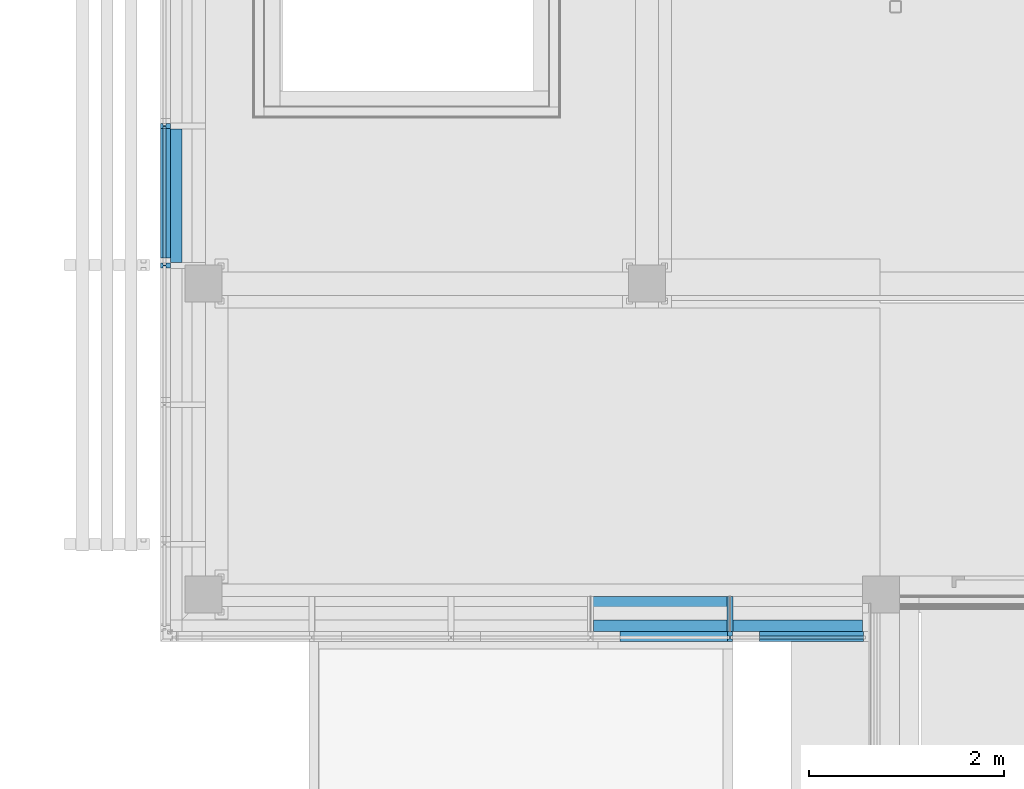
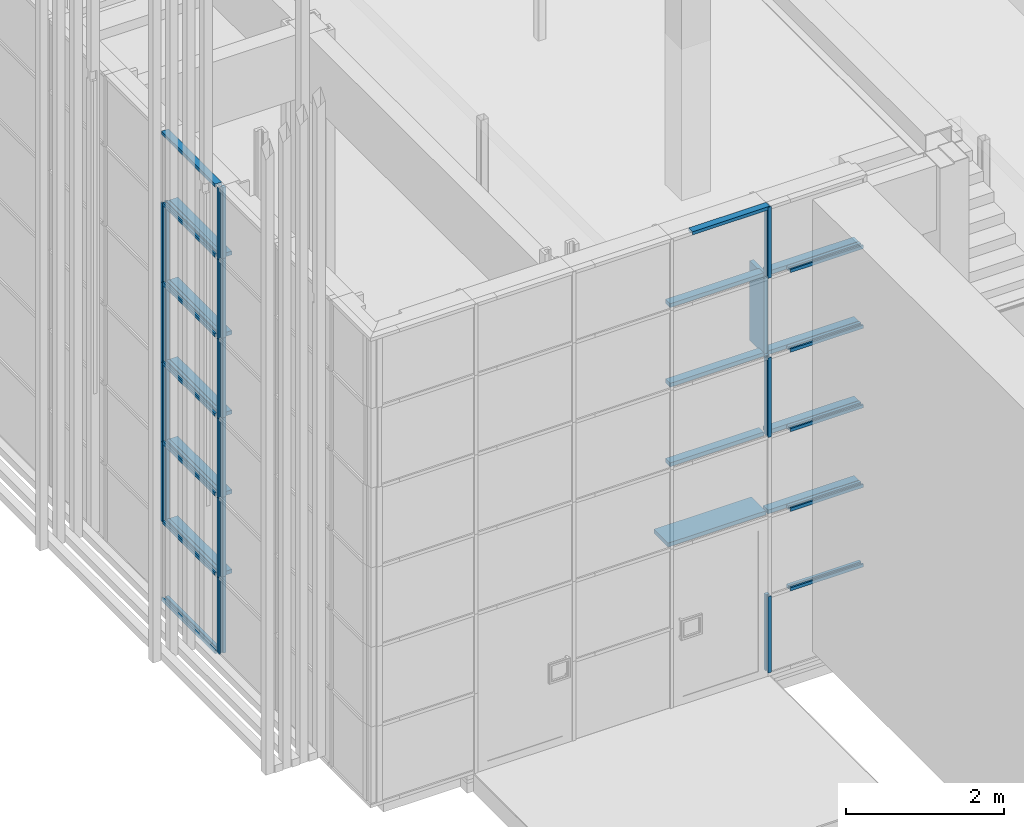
# One storey, part 10 of 260: 40 members, 2 elements without a shape of their own.
"""IFC2X3 building model written with IfcOpenShell, lengths in millimetres."""

from ifc_helpers import new_model, entity, si_unit, converted_unit, derived_unit, money_unit, direction, frame, origin_with_axes, place, context, subcontext, project, spatial, faceted_brep, source, transform, mapped, material, type_object, element, aggregate, save


model = new_model("IFC2X3")

# Units and contexts
model_context = context("Model", 3, precision=0.01, world=origin_with_axes(), true_north=direction((0.0, 1.0)))
body_context = subcontext(model_context, "Body", "Model", "MODEL_VIEW")
ifc_project = project(units=[si_unit("LENGTHUNIT", "METRE", prefix="MILLI"), si_unit("AREAUNIT", "SQUARE_METRE"), si_unit("VOLUMEUNIT", "CUBIC_METRE"), converted_unit("PLANEANGLEUNIT", "DEGREE", entity("IfcPlaneAngleMeasure", 0.0174532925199), si_unit("PLANEANGLEUNIT", "RADIAN"), dimensions=[0, 0, 0, 0, 0, 0, 0]), money_unit("EUR"), converted_unit("TIMEUNIT", "Year", entity("IfcTimeMeasure", 31556926.0), si_unit("TIMEUNIT", "SECOND"), dimensions=[0, 0, 1, 0, 0, 0, 0]), si_unit("MASSUNIT", "GRAM", prefix="KILO"), si_unit("THERMODYNAMICTEMPERATUREUNIT", "DEGREE_CELSIUS"), si_unit("LUMINOUSINTENSITYUNIT", "LUMEN"), si_unit("ENERGYUNIT", "JOULE", prefix="MEGA"), derived_unit("THERMALCONDUCTANCEUNIT", [(si_unit("POWERUNIT", "WATT"), 1), (si_unit("LENGTHUNIT", "METRE"), -1), (si_unit("THERMODYNAMICTEMPERATUREUNIT", "KELVIN"), -1)]), derived_unit("SPECIFICHEATCAPACITYUNIT", [(si_unit("ENERGYUNIT", "JOULE"), 1), (si_unit("MASSUNIT", "GRAM", prefix="KILO"), -1), (si_unit("THERMODYNAMICTEMPERATUREUNIT", "KELVIN"), -1)]), derived_unit("MASSDENSITYUNIT", [(si_unit("MASSUNIT", "GRAM", prefix="KILO"), 1), (si_unit("VOLUMEUNIT", "CUBIC_METRE"), -1)])], contexts=[model_context])

# Site, building, storey
site_placement = place(None, origin_with_axes())
site = spatial("IfcSite", under=ifc_project, at=site_placement, Name="Kolde pst 67a", CompositionType="ELEMENT")
building_placement = place(site_placement, origin_with_axes())
building = spatial("IfcBuilding", under=site, at=building_placement, Name="Riigigümnaasium", CompositionType="ELEMENT")
storey_placement = place(building_placement, origin_with_axes())
storey = spatial("IfcBuildingStorey", under=building, at=storey_placement, Name="1. korrus", CompositionType="ELEMENT", Elevation=0.0)

# Curtain wall, members
curtain_wall_type = type_object("IfcCurtainWallType", Name="Curtain Wall Type", PredefinedType="NOTDEFINED")
curtain_wall_1_placement = place(storey_placement, frame((47829.9854655, 8727.77020058, -0.000749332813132), z_axis=(0.0, 0.0, 1.0), x_axis=(1.0, 0.0, 0.0)))
curtain_wall_1 = element("IfcCurtainWall", 1, at=curtain_wall_1_placement, inside=storey, type_object=curtain_wall_type, Name="KLAASFASSAAD")
ifc_material_1 = material(Name="_METALL - alumiinium")
member_type_1 = type_object("IfcMemberType", Name="Transom Frame 50 x 100", PredefinedType="MEMBER")
shared_shape_1 = source(origin_with_axes(), body_context, "Body", "Brep", [
    faceted_brep([(5.0, -16.5, 1116.31585111), (5.0, 16.5, 1116.31585111), (25.0, 16.5, 1116.31585111), (25.0, 40.0, 1116.31585111), (-25.0, 40.0, 1116.31585111), (-25.0, 16.5, 1116.31585111), (-5.0, 16.5, 1116.31585111), (-5.0, -16.5, 1116.31585111), (-25.0, -16.5, 1116.31585111), (-25.0, -60.0, 1116.31585111), (25.0, -60.0, 1116.31585111), (25.0, -16.5, 1116.31585111), (5.0, -16.5, 50.0), (5.0, 16.5, 50.0), (25.0, 16.5, 50.0), (25.0, 40.0, 50.0), (-25.0, 40.0, 50.0), (-25.0, 16.5, 50.0), (-5.0, 16.5, 50.0), (-5.0, -16.5, 50.0), (-25.0, -16.5, 50.0), (-25.0, -60.0, 50.0), (25.0, -60.0, 50.0), (25.0, -16.5, 50.0)], [[[0, 1, 2, 3, 4, 5, 6, 7, 8, 9, 10, 11]], [[0, 12, 13, 1]], [[1, 13, 14, 2]], [[14, 15, 3, 2]], [[4, 3, 15, 16]], [[17, 5, 4, 16]], [[5, 17, 18, 6]], [[7, 6, 18, 19]], [[8, 7, 19, 20]], [[8, 20, 21, 9]], [[10, 9, 21, 22]], [[11, 10, 22, 23]], [[11, 23, 12, 0]], [[13, 12, 23, 22, 21, 20, 19, 18, 17, 16, 15, 14]]]),
])
member_1_placement = place(curtain_wall_1_placement, frame((7219.88143544, -1457.7720558, 1230.00074933), z_axis=(-1.0, 2.70881141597e-07, 0.0), x_axis=(0.0, 0.0, 1.0)))
member_1 = element("IfcMember", 2, at=member_1_placement, type_object=member_type_1, material=ifc_material_1, Name="RF RAAM HOR-669", ObjectType="MEMBER", context=body_context, shape_type="MappedRepresentation", body=[
    mapped(shared_shape_1, transform((0.0, 0.0, 0.0), x_axis=(-1.0, 0.0, 0.0), y_axis=(0.0, -1.0, 0.0), z_axis=(0.0, 0.0, 1.0))),
])
member_2_placement = place(curtain_wall_1_placement, frame((7219.88143544, -1457.7720558, 2460.00074933), z_axis=(-1.0, 2.70881141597e-07, 0.0), x_axis=(0.0, 0.0, 1.0)))
member_2 = element("IfcMember", 3, at=member_2_placement, type_object=member_type_1, material=ifc_material_1, Name="RF RAAM HOR-669", ObjectType="MEMBER", context=body_context, shape_type="MappedRepresentation", body=[
    mapped(shared_shape_1, transform((0.0, 0.0, 0.0), x_axis=(-1.0, 0.0, 0.0), y_axis=(0.0, -1.0, 0.0), z_axis=(0.0, 0.0, 1.0))),
])
member_3_placement = place(curtain_wall_1_placement, frame((7219.88143544, -1457.7720558, 3690.00074933), z_axis=(-1.0, 2.70881141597e-07, 0.0), x_axis=(0.0, 0.0, 1.0)))
member_3 = element("IfcMember", 4, at=member_3_placement, type_object=member_type_1, material=ifc_material_1, Name="RF RAAM HOR-706", ObjectType="MEMBER", context=body_context, shape_type="MappedRepresentation", body=[
    mapped(shared_shape_1, transform((0.0, 0.0, 0.0), x_axis=(-1.0, 0.0, 0.0), y_axis=(0.0, -1.0, 0.0), z_axis=(0.0, 0.0, 1.0))),
])
member_4_placement = place(curtain_wall_1_placement, frame((7219.88143544, -1457.7720558, 4920.00074933), z_axis=(-1.0, 2.70881141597e-07, 0.0), x_axis=(0.0, 0.0, 1.0)))
member_4 = element("IfcMember", 5, at=member_4_placement, type_object=member_type_1, material=ifc_material_1, Name="RF RAAM HOR-681", ObjectType="MEMBER", context=body_context, shape_type="MappedRepresentation", body=[
    mapped(shared_shape_1, transform((0.0, 0.0, 0.0), x_axis=(-1.0, 0.0, 0.0), y_axis=(0.0, -1.0, 0.0), z_axis=(0.0, 0.0, 1.0))),
])
member_5_placement = place(curtain_wall_1_placement, frame((7219.88143544, -1457.7720558, 6150.00074933), z_axis=(-1.0, 2.70881141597e-07, 0.0), x_axis=(0.0, 0.0, 1.0)))
member_5 = element("IfcMember", 6, at=member_5_placement, type_object=member_type_1, material=ifc_material_1, Name="RF RAAM HOR-687", ObjectType="MEMBER", context=body_context, shape_type="MappedRepresentation", body=[
    mapped(shared_shape_1, transform((0.0, 0.0, 0.0), x_axis=(-1.0, 0.0, 0.0), y_axis=(0.0, -1.0, 0.0), z_axis=(0.0, 0.0, 1.0))),
])
member_type_2 = type_object("IfcMemberType", Name="Mullion Frame 50 x 100", PredefinedType="MEMBER")
shared_shape_2 = source(origin_with_axes(), body_context, "Body", "Brep", [
    faceted_brep([(5.0, -16.5, 1230.00046362), (5.0, 16.5, 1230.00046362), (25.0, 16.5, 1230.00046362), (25.0, 40.0, 1230.00046362), (-25.0, 40.0, 1230.00046362), (-25.0, 16.5, 1230.00046362), (-5.0, 16.5, 1230.00046362), (-5.0, -16.5, 1230.00046362), (-25.0, -16.5, 1230.00046362), (-25.0, -60.0, 1230.00046362), (25.0, -60.0, 1230.00046362), (25.0, -16.5, 1230.00046362), (5.0, -16.5, 50.0), (5.0, 16.5, 50.0), (25.0, 16.5, 50.0), (25.0, 40.0, 50.0), (-25.0, 40.0, 50.0), (-25.0, 16.5, 50.0), (-5.0, 16.5, 50.0), (-5.0, -16.5, 50.0), (-25.0, -16.5, 50.0), (-25.0, -60.0, 50.0), (25.0, -60.0, 50.0), (25.0, -16.5, 50.0)], [[[0, 1, 2, 3, 4, 5, 6, 7, 8, 9, 10, 11]], [[0, 12, 13, 1]], [[1, 13, 14, 2]], [[14, 15, 3, 2]], [[4, 3, 15, 16]], [[17, 5, 4, 16]], [[5, 17, 18, 6]], [[7, 6, 18, 19]], [[8, 7, 19, 20]], [[8, 20, 21, 9]], [[10, 9, 21, 22]], [[11, 10, 22, 23]], [[11, 23, 12, 0]], [[13, 12, 23, 22, 21, 20, 19, 18, 17, 16, 15, 14]]]),
])
member_6_placement = place(curtain_wall_1_placement, frame((-2.15032258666e-06, 2358.79108085, 0.0), z_axis=(0.0, -1.0434292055e-08, 1.0), x_axis=(9.1161639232e-10, -1.0, -1.0434292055e-08)))
member_6 = element("IfcMember", 7, at=member_6_placement, type_object=member_type_2, material=ifc_material_1, Name="RF RAAM VERT-984", ObjectType="MEMBER", context=body_context, shape_type="MappedRepresentation", body=[
    mapped(shared_shape_2, transform((0.0, 0.0, 0.0), x_axis=(-1.0, 0.0, -1.0434292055e-08), y_axis=(0.0, -1.0, 0.0), z_axis=(-1.0434292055e-08, 0.0, 1.0))),
])
member_7_placement = place(curtain_wall_1_placement, frame((5800.65723232, -1457.77167136, 0.000719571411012), z_axis=(-8.07245849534e-10, 0.0, 1.0), x_axis=(1.0, -2.70881141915e-07, 8.07245849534e-10)))
member_7 = element("IfcMember", 8, at=member_7_placement, type_object=member_type_2, material=ifc_material_1, Name="RF RAAM VERT-001", ObjectType="MEMBER", context=body_context, shape_type="MappedRepresentation", body=[
    mapped(shared_shape_2, transform((0.0, 0.0, 0.0), x_axis=(-1.0, -2.70881141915e-07, 8.07245849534e-10), y_axis=(2.70881141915e-07, -1.0, 0.0), z_axis=(8.07245849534e-10, 0.0, 1.0))),
])
shared_shape_3 = source(origin_with_axes(), body_context, "Body", "Brep", [
    faceted_brep([(5.0, -16.5, 1230.0), (5.0, 16.5, 1230.0), (25.0, 16.5, 1230.0), (25.0, 40.0, 1230.0), (-25.0, 40.0, 1230.0), (-25.0, 16.5, 1230.0), (-5.0, 16.5, 1230.0), (-5.0, -16.5, 1230.0), (-25.0, -16.5, 1230.0), (-25.0, -60.0, 1230.0), (25.0, -60.0, 1230.0), (25.0, -16.5, 1230.0), (5.0, -16.5, 0.0), (5.0, 16.5, 0.0), (25.0, 16.5, 0.0), (25.0, 40.0, 0.0), (-25.0, 40.0, 0.0), (-25.0, 16.5, 0.0), (-5.0, 16.5, 0.0), (-5.0, -16.5, 0.0), (-25.0, -16.5, 0.0), (-25.0, -60.0, 0.0), (25.0, -60.0, 0.0), (25.0, -16.5, 0.0)], [[[0, 1, 2, 3, 4, 5, 6, 7, 8, 9, 10, 11]], [[0, 12, 13, 1]], [[1, 13, 14, 2]], [[14, 15, 3, 2]], [[3, 15, 16, 4]], [[17, 5, 4, 16]], [[5, 17, 18, 6]], [[7, 6, 18, 19]], [[8, 7, 19, 20]], [[8, 20, 21, 9]], [[9, 21, 22, 10]], [[11, 10, 22, 23]], [[11, 23, 12, 0]], [[13, 12, 23, 22, 21, 20, 19, 18, 17, 16, 15, 14]]]),
])
member_8_placement = place(curtain_wall_1_placement, frame((-2.15032258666e-06, 2358.79106801, 4920.00074933), z_axis=(0.0, 0.0, 1.0), x_axis=(9.1161639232e-10, -1.0, 0.0)))
member_8 = element("IfcMember", 9, at=member_8_placement, type_object=member_type_2, material=ifc_material_1, Name="RF RAAM VERT-869", ObjectType="MEMBER", context=body_context, shape_type="MappedRepresentation", body=[
    mapped(shared_shape_3, transform((0.0, 0.0, 0.0), x_axis=(-1.0, 0.0, 0.0), y_axis=(0.0, -1.0, 0.0), z_axis=(0.0, 0.0, 1.0))),
])
member_9_placement = place(curtain_wall_1_placement, frame((-3.45392692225e-06, 3788.79108932, 4920.00074933), z_axis=(0.0, -1.73241294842e-08, 1.0), x_axis=(9.11613907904e-10, -1.0, -1.73241294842e-08)))
member_9 = element("IfcMember", 10, at=member_9_placement, type_object=member_type_2, material=ifc_material_1, Name="RF RAAM VERT-870", ObjectType="MEMBER", context=body_context, shape_type="MappedRepresentation", body=[
    mapped(shared_shape_3, transform((0.0, 0.0, 0.0), x_axis=(-1.0, 0.0, -1.73241294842e-08), y_axis=(0.0, -1.0, 0.0), z_axis=(-1.73241294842e-08, 0.0, 1.0))),
])
member_10_placement = place(curtain_wall_1_placement, frame((-3.45392692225e-06, 3788.79106801, 1230.00074933), z_axis=(0.0, 0.0, 1.0), x_axis=(9.11613907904e-10, -1.0, 0.0)))
member_10 = element("IfcMember", 11, at=member_10_placement, type_object=member_type_2, material=ifc_material_1, Name="RF RAAM VERT-975", ObjectType="MEMBER", context=body_context, shape_type="MappedRepresentation", body=[
    mapped(shared_shape_3, transform((0.0, 0.0, 0.0), x_axis=(-1.0, 0.0, 0.0), y_axis=(0.0, -1.0, 0.0), z_axis=(0.0, 0.0, 1.0))),
])
member_11_placement = place(curtain_wall_1_placement, frame((-3.45392692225e-06, 3788.79106801, 2460.00074933), z_axis=(0.0, 0.0, 1.0), x_axis=(9.11613907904e-10, -1.0, 0.0)))
member_11 = element("IfcMember", 12, at=member_11_placement, type_object=member_type_2, material=ifc_material_1, Name="RF RAAM VERT-976", ObjectType="MEMBER", context=body_context, shape_type="MappedRepresentation", body=[
    mapped(shared_shape_3, transform((0.0, 0.0, 0.0), x_axis=(-1.0, 0.0, 0.0), y_axis=(0.0, -1.0, 0.0), z_axis=(0.0, 0.0, 1.0))),
])
member_12_placement = place(curtain_wall_1_placement, frame((-3.45392692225e-06, 3788.79106801, 3690.00074933), z_axis=(0.0, 1.73241294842e-08, 1.0), x_axis=(9.11613907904e-10, -1.0, 1.73241294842e-08)))
member_12 = element("IfcMember", 13, at=member_12_placement, type_object=member_type_2, material=ifc_material_1, Name="RF RAAM VERT-977", ObjectType="MEMBER", context=body_context, shape_type="MappedRepresentation", body=[
    mapped(shared_shape_3, transform((0.0, 0.0, 0.0), x_axis=(-1.0, 0.0, 1.73241294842e-08), y_axis=(0.0, -1.0, 0.0), z_axis=(1.73241294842e-08, 0.0, 1.0))),
])
member_13_placement = place(curtain_wall_1_placement, frame((-2.15032258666e-06, 2358.79106801, 1230.00074933), z_axis=(0.0, 0.0, 1.0), x_axis=(9.1161639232e-10, -1.0, 0.0)))
member_13 = element("IfcMember", 14, at=member_13_placement, type_object=member_type_2, material=ifc_material_1, Name="RF RAAM VERT-980", ObjectType="MEMBER", context=body_context, shape_type="MappedRepresentation", body=[
    mapped(shared_shape_3, transform((0.0, 0.0, 0.0), x_axis=(-1.0, 0.0, 0.0), y_axis=(0.0, -1.0, 0.0), z_axis=(0.0, 0.0, 1.0))),
])
member_14_placement = place(curtain_wall_1_placement, frame((-2.15032258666e-06, 2358.79106801, 2460.00074933), z_axis=(0.0, 0.0, 1.0), x_axis=(9.1161639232e-10, -1.0, 0.0)))
member_14 = element("IfcMember", 15, at=member_14_placement, type_object=member_type_2, material=ifc_material_1, Name="RF RAAM VERT-981", ObjectType="MEMBER", context=body_context, shape_type="MappedRepresentation", body=[
    mapped(shared_shape_3, transform((0.0, 0.0, 0.0), x_axis=(-1.0, 0.0, 0.0), y_axis=(0.0, -1.0, 0.0), z_axis=(0.0, 0.0, 1.0))),
])
member_15_placement = place(curtain_wall_1_placement, frame((-2.15032258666e-06, 2358.79106801, 3690.00074933), z_axis=(0.0, 0.0, 1.0), x_axis=(9.1161639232e-10, -1.0, 0.0)))
member_15 = element("IfcMember", 16, at=member_15_placement, type_object=member_type_2, material=ifc_material_1, Name="RF RAAM VERT-982", ObjectType="MEMBER", context=body_context, shape_type="MappedRepresentation", body=[
    mapped(shared_shape_3, transform((0.0, 0.0, 0.0), x_axis=(-1.0, 0.0, 0.0), y_axis=(0.0, -1.0, 0.0), z_axis=(0.0, 0.0, 1.0))),
])
member_16_placement = place(curtain_wall_1_placement, frame((5800.65725263, -1457.77167136, 3690.00074933), z_axis=(0.0, 0.0, 1.0), x_axis=(1.0, -2.70881141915e-07, 0.0)))
member_16 = element("IfcMember", 17, at=member_16_placement, type_object=member_type_2, material=ifc_material_1, Name="RF RAAM VERT-002", ObjectType="MEMBER", context=body_context, shape_type="MappedRepresentation", body=[
    mapped(shared_shape_3, transform((0.0, 0.0, 0.0), x_axis=(-1.0, -2.70881141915e-07, 0.0), y_axis=(2.70881141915e-07, -1.0, 0.0), z_axis=(0.0, 0.0, 1.0))),
])
shared_shape_4 = source(origin_with_axes(), body_context, "Body", "Brep", [
    faceted_brep([(5.0, -16.5, 1327.75198335), (5.0, 16.5, 1327.75198335), (25.0, 16.5, 1327.75198335), (25.0, 40.0, 1327.75198335), (-25.0, 40.0, 1327.75198335), (-25.0, 16.5, 1327.75198335), (-5.0, 16.5, 1327.75198335), (-5.0, -16.5, 1327.75198335), (-25.0, -16.5, 1327.75198335), (-25.0, -60.0, 1327.75198335), (25.0, -60.0, 1327.75198335), (25.0, -16.5, 1327.75198335), (5.0, -16.5, 0.0), (5.0, 16.5, 0.0), (25.0, 16.5, 0.0), (25.0, 40.0, 0.0), (-25.0, 40.0, 0.0), (-25.0, 16.5, 0.0), (-5.0, 16.5, 0.0), (-5.0, -16.5, 0.0), (-25.0, -16.5, 0.0), (-25.0, -60.0, 0.0), (25.0, -60.0, 0.0), (25.0, -16.5, 0.0)], [[[0, 1, 2, 3, 4, 5, 6, 7, 8, 9, 10, 11]], [[0, 12, 13, 1]], [[1, 13, 14, 2]], [[14, 15, 3, 2]], [[3, 15, 16, 4]], [[17, 5, 4, 16]], [[5, 17, 18, 6]], [[7, 6, 18, 19]], [[8, 7, 19, 20]], [[8, 20, 21, 9]], [[9, 21, 22, 10]], [[11, 10, 22, 23]], [[11, 23, 12, 0]], [[13, 12, 23, 22, 21, 20, 19, 18, 17, 16, 15, 14]]]),
])
member_17_placement = place(curtain_wall_1_placement, frame((-2.2207444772e-06, 2436.03908467, 4920.00074933), z_axis=(-9.11610140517e-10, 1.0, 0.0), x_axis=(0.0, 0.0, 1.0)))
member_17 = element("IfcMember", 18, at=member_17_placement, type_object=member_type_1, material=ifc_material_1, Name="RF RAAM HOR-827", ObjectType="MEMBER", context=body_context, shape_type="MappedRepresentation", body=[
    mapped(shared_shape_4, transform((0.0, 0.0, 0.0), x_axis=(-1.0, 0.0, 0.0), y_axis=(0.0, -1.0, 9.11610018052e-10), z_axis=(0.0, 9.11610018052e-10, 1.0))),
])
member_18_placement = place(curtain_wall_1_placement, frame((-2.2207444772e-06, 2436.03908467, 6150.00074933), z_axis=(-9.11610154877e-10, 1.0, 0.0), x_axis=(0.0, 0.0, 1.0)))
member_18 = element("IfcMember", 19, at=member_18_placement, type_object=member_type_1, material=ifc_material_1, Name="RF RAAM HOR-828", ObjectType="MEMBER", context=body_context, shape_type="MappedRepresentation", body=[
    mapped(shared_shape_4, transform((0.0, 0.0, 0.0), x_axis=(-1.0, 0.0, 0.0), y_axis=(0.0, -1.0, 9.11610032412e-10), z_axis=(0.0, 9.11610032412e-10, 1.0))),
])
member_19_placement = place(curtain_wall_1_placement, frame((-2.2207444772e-06, 2436.03908467, 1230.00074933), z_axis=(-9.11610154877e-10, 1.0, 0.0), x_axis=(0.0, 0.0, 1.0)))
member_19 = element("IfcMember", 20, at=member_19_placement, type_object=member_type_1, material=ifc_material_1, Name="RF RAAM HOR-934", ObjectType="MEMBER", context=body_context, shape_type="MappedRepresentation", body=[
    mapped(shared_shape_4, transform((0.0, 0.0, 0.0), x_axis=(-1.0, 0.0, 0.0), y_axis=(0.0, -1.0, 9.11610032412e-10), z_axis=(0.0, 9.11610032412e-10, 1.0))),
])
member_20_placement = place(curtain_wall_1_placement, frame((-2.2207444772e-06, 2436.03908467, 2460.00074933), z_axis=(-9.11610154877e-10, 1.0, 0.0), x_axis=(0.0, 0.0, 1.0)))
member_20 = element("IfcMember", 21, at=member_20_placement, type_object=member_type_1, material=ifc_material_1, Name="RF RAAM HOR-935", ObjectType="MEMBER", context=body_context, shape_type="MappedRepresentation", body=[
    mapped(shared_shape_4, transform((0.0, 0.0, 0.0), x_axis=(-1.0, 0.0, 0.0), y_axis=(0.0, -1.0, 9.11610032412e-10), z_axis=(0.0, 9.11610032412e-10, 1.0))),
])
member_21_placement = place(curtain_wall_1_placement, frame((-2.2207444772e-06, 2436.03908467, 3690.00074933), z_axis=(-9.11610154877e-10, 1.0, 0.0), x_axis=(0.0, 0.0, 1.0)))
member_21 = element("IfcMember", 22, at=member_21_placement, type_object=member_type_1, material=ifc_material_1, Name="RF RAAM HOR-936", ObjectType="MEMBER", context=body_context, shape_type="MappedRepresentation", body=[
    mapped(shared_shape_4, transform((0.0, 0.0, 0.0), x_axis=(-1.0, 0.0, 0.0), y_axis=(0.0, -1.0, 9.11610032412e-10), z_axis=(0.0, 9.11610032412e-10, 1.0))),
])
member_type_3 = type_object("IfcMemberType", Name="Boundary Frame 50 x 100", PredefinedType="MEMBER")
shared_shape_5 = source(origin_with_axes(), body_context, "Body", "Brep", [
    faceted_brep([(-30.0, -16.5, 1352.75197298), (-50.0, -16.5, 1352.75197298), (-50.0, -60.0, 1352.75197298), (0.0, -60.0, 1352.75197298), (0.0, 40.0, 1352.75197298), (-50.0, 40.0, 1352.75197298), (-50.0, 16.5, 1352.75197298), (-30.0, 16.5, 1352.75197298), (-30.0, -16.5, 0.0), (-50.0, -16.5, 0.0), (-50.0, -60.0, 0.0), (0.0, -60.0, 0.0), (0.0, 40.0, 0.0), (-50.0, 40.0, 0.0), (-50.0, 16.5, 0.0), (-30.0, 16.5, 0.0)], [[[0, 1, 2, 3, 4, 5, 6, 7]], [[0, 8, 9, 1]], [[9, 10, 2, 1]], [[10, 11, 3, 2]], [[11, 12, 4, 3]], [[12, 13, 5, 4]], [[6, 5, 13, 14]], [[14, 15, 7, 6]], [[7, 15, 8, 0]], [[8, 15, 14, 13, 12, 11, 10, 9]]]),
])
member_22_placement = place(curtain_wall_1_placement, frame((-2.2207444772e-06, 2436.03908467, 0.0), z_axis=(-9.11610153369e-10, 1.0, 0.0), x_axis=(0.0, 0.0, 1.0)))
member_22 = element("IfcMember", 23, at=member_22_placement, type_object=member_type_3, material=ifc_material_1, Name="RF RAAM SERV-556", ObjectType="MEMBER", context=body_context, shape_type="MappedRepresentation", body=[
    mapped(shared_shape_5, transform((0.0, 0.0, 0.0), x_axis=(-1.0, 0.0, 0.0), y_axis=(0.0, -1.0, 9.11610030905e-10), z_axis=(0.0, 9.11610030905e-10, 1.0))),
])
member_23_placement = place(curtain_wall_1_placement, frame((-3.45392692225e-06, 3788.79107023, 7259.99994321), z_axis=(9.11610153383e-10, -1.0, 0.0), x_axis=(0.0, 0.0, -1.0)))
member_23 = element("IfcMember", 24, at=member_23_placement, type_object=member_type_3, material=ifc_material_1, Name="RF RAAM SERV-579", ObjectType="MEMBER", context=body_context, shape_type="MappedRepresentation", body=[
    mapped(shared_shape_5, transform((0.0, 0.0, 0.0), x_axis=(-1.0, 0.0, 0.0), y_axis=(0.0, -1.0, -9.11610153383e-10), z_axis=(0.0, -9.11610153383e-10, 1.0))),
])
shared_shape_6 = source(origin_with_axes(), body_context, "Body", "Brep", [
    faceted_brep([(5.0, -16.5, 1099.99900713), (5.0, 16.5, 1099.99900713), (25.0, 16.5, 1099.99900713), (25.0, 40.0, 1099.99900713), (-25.0, 40.0, 1099.99900713), (-25.0, 16.5, 1099.99900713), (-5.0, 16.5, 1099.99900713), (-5.0, -16.5, 1099.99900713), (-25.0, -16.5, 1099.99900713), (-25.0, -60.0, 1099.99900713), (25.0, -60.0, 1099.99900713), (25.0, -16.5, 1099.99900713), (5.0, -16.5, -4.55870452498e-07), (5.0, 16.5, -4.55870452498e-07), (25.0, 16.5, -4.55870452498e-07), (25.0, 40.0, -4.55870452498e-07), (-25.0, 40.0, -4.55870452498e-07), (-25.0, 16.5, -4.55870452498e-07), (-5.0, 16.5, -4.55870452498e-07), (-5.0, -16.5, -4.55870452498e-07), (-25.0, -16.5, -4.55870452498e-07), (-25.0, -60.0, -4.55870452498e-07), (25.0, -60.0, -4.55870452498e-07), (25.0, -16.5, -4.55870452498e-07)], [[[0, 1, 2, 3, 4, 5, 6, 7, 8, 9, 10, 11]], [[0, 12, 13, 1]], [[1, 13, 14, 2]], [[14, 15, 3, 2]], [[3, 15, 16, 4]], [[17, 5, 4, 16]], [[5, 17, 18, 6]], [[7, 6, 18, 19]], [[8, 7, 19, 20]], [[8, 20, 21, 9]], [[9, 21, 22, 10]], [[11, 10, 22, 23]], [[11, 23, 12, 0]], [[13, 12, 23, 22, 21, 20, 19, 18, 17, 16, 15, 14]]]),
])
member_24_placement = place(curtain_wall_1_placement, frame((5800.65723132, -1457.77167136, 6150.00074933), z_axis=(9.10684067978e-10, 0.0, 1.0), x_axis=(1.0, -2.70881141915e-07, -9.10684067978e-10)))
member_24 = element("IfcMember", 25, at=member_24_placement, type_object=member_type_2, material=ifc_material_1, Name="RF RAAM VERT-025", ObjectType="MEMBER", context=body_context, shape_type="MappedRepresentation", body=[
    mapped(shared_shape_6, transform((0.0, 0.0, 0.0), x_axis=(-1.0, -2.70881141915e-07, -9.10684067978e-10), y_axis=(2.70881141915e-07, -1.0, 0.0), z_axis=(-9.10684067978e-10, 0.0, 1.0))),
])
member_25_placement = place(curtain_wall_1_placement, frame((-2.15032258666e-06, 2358.79106801, 6150.00074933), z_axis=(0.0, 1.14590996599e-08, 1.0), x_axis=(9.1161639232e-10, -1.0, 1.14590996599e-08)))
member_25 = element("IfcMember", 26, at=member_25_placement, type_object=member_type_2, material=ifc_material_1, Name="RF RAAM VERT-045", ObjectType="MEMBER", context=body_context, shape_type="MappedRepresentation", body=[
    mapped(shared_shape_6, transform((0.0, 0.0, 0.0), x_axis=(-1.0, 0.0, 1.14590996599e-08), y_axis=(0.0, -1.0, 0.0), z_axis=(1.14590996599e-08, 0.0, 1.0))),
])
shared_shape_7 = source(origin_with_axes(), body_context, "Body", "Brep", [
    faceted_brep([(-30.0, -16.5, 1127.09167065), (-50.0, -16.5, 1127.09167065), (-50.0, -60.0, 1127.09167065), (0.0, -60.0, 1127.09167065), (0.0, 40.0, 1127.09167065), (-50.0, 40.0, 1127.09167065), (-50.0, 16.5, 1127.09167065), (-30.0, 16.5, 1127.09167065), (-30.0, -16.5, 0.0), (-50.0, -16.5, 0.0), (-50.0, -60.0, 0.0), (0.0, -60.0, 0.0), (0.0, 40.0, 0.0), (-50.0, 40.0, 0.0), (-50.0, 16.5, 0.0), (-30.0, 16.5, 0.0)], [[[0, 1, 2, 3, 4, 5, 6, 7]], [[0, 8, 9, 1]], [[9, 10, 2, 1]], [[10, 11, 3, 2]], [[11, 12, 4, 3]], [[12, 13, 5, 4]], [[6, 5, 13, 14]], [[14, 15, 7, 6]], [[7, 15, 8, 0]], [[8, 15, 14, 13, 12, 11, 10, 9]]]),
])
member_26_placement = place(curtain_wall_1_placement, frame((4673.56558433, -1457.77136606, 7259.9997596), z_axis=(1.0, -2.70881141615e-07, -1.99385263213e-08), x_axis=(-1.99385263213e-08, 0.0, -1.0)))
member_26 = element("IfcMember", 27, at=member_26_placement, type_object=member_type_3, material=ifc_material_1, Name="RF RAAM SERV-545", ObjectType="MEMBER", context=body_context, shape_type="MappedRepresentation", body=[
    mapped(shared_shape_7, transform((0.0, 0.0, 0.0), x_axis=(-1.0, 0.0, -1.99385263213e-08), y_axis=(0.0, -1.0, 0.0), z_axis=(-1.99385263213e-08, 0.0, 1.0))),
])
aggregate(curtain_wall_1, [member_1, member_2, member_3, member_4, member_5, member_8, member_9, member_17, member_18, member_10, member_19, member_20, member_11, member_21, member_12, member_22, member_13, member_14, member_15, member_6, member_7, member_16, member_24, member_25, member_26, member_23])

curtain_wall_2_placement = place(storey_placement, frame((47889.9854796, 7778.28071079, -0.000681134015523), z_axis=(0.0, 0.0, 1.0), x_axis=(1.0, 0.0, 0.0)))
curtain_wall_2 = element("IfcCurtainWall", 28, at=curtain_wall_2_placement, inside=storey, type_object=curtain_wall_type, Name="Klaasfassaadi puitkarkass")
ifc_material_2 = material(Name="_KANDETARIND - liimpuit vastavalt EK osale")
member_type_4 = type_object("IfcMemberType", Name="Transom Frame 60 x 120", PredefinedType="MEMBER")
shared_shape_8 = source(origin_with_axes(), body_context, "Body", "Brep", [
    faceted_brep([(-30.0, 0.0, 30.0), (-30.0, -120.0, 30.0), (-30.0, -120.0, 1400.0), (-30.0, 0.0, 1400.0), (30.0, 0.0, 30.0), (30.0, -120.0, 30.0), (30.0, -120.0, 1400.0), (30.0, 0.0, 1400.0)], [[[0, 1, 2, 3]], [[1, 0, 4, 5]], [[1, 5, 6, 2]], [[2, 6, 7, 3]], [[4, 0, 3, 7]], [[5, 4, 7, 6]]]),
])
member_27_placement = place(curtain_wall_2_placement, frame((-3.55545637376e-06, 3308.28063511, 1230.00068113), z_axis=(-1.07471824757e-09, 1.0, 0.0), x_axis=(0.0, 0.0, 1.0)))
member_27 = element("IfcMember", 29, at=member_27_placement, type_object=member_type_4, material=ifc_material_2, Name="RF RAAM HOR-249", ObjectType="MEMBER", context=body_context, shape_type="MappedRepresentation", body=[
    mapped(shared_shape_8, transform((0.0, 0.0, 0.0), x_axis=(-1.0, 0.0, 0.0), y_axis=(0.0, -1.0, 1.07471812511e-09), z_axis=(0.0, 1.07471812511e-09, 1.0))),
])
member_28_placement = place(curtain_wall_2_placement, frame((-3.55545637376e-06, 3308.28063511, 2460.00068113), z_axis=(-1.07471824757e-09, 1.0, 0.0), x_axis=(0.0, 0.0, 1.0)))
member_28 = element("IfcMember", 30, at=member_28_placement, type_object=member_type_4, material=ifc_material_2, Name="RF RAAM HOR-249", ObjectType="MEMBER", context=body_context, shape_type="MappedRepresentation", body=[
    mapped(shared_shape_8, transform((0.0, 0.0, 0.0), x_axis=(-1.0, 0.0, 0.0), y_axis=(0.0, -1.0, 1.07471812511e-09), z_axis=(0.0, 1.07471812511e-09, 1.0))),
])
member_29_placement = place(curtain_wall_2_placement, frame((-3.55545637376e-06, 3308.28063511, 3690.00068113), z_axis=(-1.07471824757e-09, 1.0, 0.0), x_axis=(0.0, 0.0, 1.0)))
member_29 = element("IfcMember", 31, at=member_29_placement, type_object=member_type_4, material=ifc_material_2, Name="RF RAAM HOR-249", ObjectType="MEMBER", context=body_context, shape_type="MappedRepresentation", body=[
    mapped(shared_shape_8, transform((0.0, 0.0, 0.0), x_axis=(-1.0, 0.0, 0.0), y_axis=(0.0, -1.0, 1.07471812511e-09), z_axis=(0.0, 1.07471812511e-09, 1.0))),
])
member_30_placement = place(curtain_wall_2_placement, frame((-3.55545637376e-06, 3308.28063511, 4920.00068113), z_axis=(-1.07471824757e-09, 1.0, 0.0), x_axis=(0.0, 0.0, 1.0)))
member_30 = element("IfcMember", 32, at=member_30_placement, type_object=member_type_4, material=ifc_material_2, Name="RF RAAM HOR-249", ObjectType="MEMBER", context=body_context, shape_type="MappedRepresentation", body=[
    mapped(shared_shape_8, transform((0.0, 0.0, 0.0), x_axis=(-1.0, 0.0, 0.0), y_axis=(0.0, -1.0, 1.07471812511e-09), z_axis=(0.0, 1.07471812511e-09, 1.0))),
])
member_31_placement = place(curtain_wall_2_placement, frame((-3.55545637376e-06, 3308.28063511, 6150.00068113), z_axis=(-1.07471824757e-09, 1.0, 0.0), x_axis=(0.0, 0.0, 1.0)))
member_31 = element("IfcMember", 33, at=member_31_placement, type_object=member_type_4, material=ifc_material_2, Name="RF RAAM HOR-249", ObjectType="MEMBER", context=body_context, shape_type="MappedRepresentation", body=[
    mapped(shared_shape_8, transform((0.0, 0.0, 0.0), x_axis=(-1.0, 0.0, 0.0), y_axis=(0.0, -1.0, 1.07471812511e-09), z_axis=(0.0, 1.07471812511e-09, 1.0))),
])
member_32_placement = place(curtain_wall_2_placement, frame((5740.65727801, -448.282138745, 3690.00068113), z_axis=(-1.0, 2.61927578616e-07, 0.0), x_axis=(0.0, 0.0, 1.0)))
member_32 = element("IfcMember", 34, at=member_32_placement, type_object=member_type_4, material=ifc_material_2, Name="RF RAAM HOR-249", ObjectType="MEMBER", context=body_context, shape_type="MappedRepresentation", body=[
    mapped(shared_shape_8, transform((0.0, 0.0, 0.0), x_axis=(-1.0, 0.0, 0.0), y_axis=(0.0, -1.0, 0.0), z_axis=(0.0, 0.0, 1.0))),
])
member_33_placement = place(curtain_wall_2_placement, frame((5740.65727801, -448.282138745, 4920.00068113), z_axis=(-1.0, 2.61927578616e-07, 0.0), x_axis=(0.0, 0.0, 1.0)))
member_33 = element("IfcMember", 35, at=member_33_placement, type_object=member_type_4, material=ifc_material_2, Name="RF RAAM HOR-249", ObjectType="MEMBER", context=body_context, shape_type="MappedRepresentation", body=[
    mapped(shared_shape_8, transform((0.0, 0.0, 0.0), x_axis=(-1.0, 0.0, 0.0), y_axis=(0.0, -1.0, 0.0), z_axis=(0.0, 0.0, 1.0))),
])
member_34_placement = place(curtain_wall_2_placement, frame((5740.65727801, -448.282138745, 6150.00068113), z_axis=(-1.0, 2.61927578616e-07, 0.0), x_axis=(0.0, 0.0, 1.0)))
member_34 = element("IfcMember", 36, at=member_34_placement, type_object=member_type_4, material=ifc_material_2, Name="RF RAAM HOR-249", ObjectType="MEMBER", context=body_context, shape_type="MappedRepresentation", body=[
    mapped(shared_shape_8, transform((0.0, 0.0, 0.0), x_axis=(-1.0, 0.0, 0.0), y_axis=(0.0, -1.0, 0.0), z_axis=(0.0, 0.0, 1.0))),
])
member_type_5 = type_object("IfcMemberType", Name="Mullion Frame 60 x 360", PredefinedType="MEMBER")
shared_shape_9 = source(origin_with_axes(), body_context, "Body", "Brep", [
    faceted_brep([(-30.0, -360.0, 0.0), (-30.0, -360.0, 1230.0), (-30.0, 0.0, 1230.0), (-30.0, 0.0, 0.0), (30.0, -360.0, 0.0), (30.0, -360.0, 1230.0), (30.0, 0.0, 1230.0), (30.0, 0.0, 0.0)], [[[0, 1, 2, 3]], [[4, 5, 1, 0]], [[1, 5, 6, 2]], [[3, 2, 6, 7]], [[0, 3, 7, 4]], [[7, 6, 5, 4]]]),
])
member_35_placement = place(curtain_wall_2_placement, frame((5740.65727801, -448.282138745, 4920.00068113), z_axis=(0.0, 0.0, 1.0), x_axis=(1.0, -2.61927578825e-07, 0.0)))
member_35 = element("IfcMember", 37, at=member_35_placement, type_object=member_type_5, material=ifc_material_2, Name="RF RAAM VERT-457", ObjectType="MEMBER", context=body_context, shape_type="MappedRepresentation", body=[
    mapped(shared_shape_9, transform((0.0, 0.0, 0.0), x_axis=(-1.0, -2.61927578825e-07, 0.0), y_axis=(2.61927578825e-07, -1.0, 0.0), z_axis=(0.0, 0.0, 1.0))),
])
member_type_6 = type_object("IfcMemberType", Name="Boundary Frame 60 x 360", PredefinedType="MEMBER")
shared_shape_10 = source(origin_with_axes(), body_context, "Body", "Brep", [
    faceted_brep([(-30.0, -360.0, 0.0), (-30.0, -360.0, 1430.0), (-30.0, 0.0, 1430.0), (-30.0, 0.0, 0.0), (30.0, -360.0, 0.0), (30.0, -360.0, 1430.0), (30.0, 0.0, 1430.0), (30.0, 0.0, 0.0)], [[[0, 1, 2, 3]], [[4, 5, 1, 0]], [[1, 5, 6, 2]], [[3, 2, 6, 7]], [[0, 3, 7, 4]], [[7, 6, 5, 4]]]),
])
member_36_placement = place(curtain_wall_2_placement, frame((5740.65727801, -448.282138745, 2460.00068113), z_axis=(-1.0, 2.61927578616e-07, 0.0), x_axis=(0.0, 0.0, 1.0)))
member_36 = element("IfcMember", 38, at=member_36_placement, type_object=member_type_6, material=ifc_material_2, Name="RF RAAM HOR-249", ObjectType="MEMBER", context=body_context, shape_type="MappedRepresentation", body=[
    mapped(shared_shape_10, transform((0.0, 0.0, 0.0), x_axis=(-1.0, 0.0, 0.0), y_axis=(0.0, -1.0, 0.0), z_axis=(0.0, 0.0, 1.0))),
])
shared_shape_11 = source(origin_with_axes(), body_context, "Body", "Brep", [
    faceted_brep([(-30.0, 0.0, 60.0), (-30.0, -120.0, 60.0), (-30.0, -120.0, 1389.22426767), (-30.0, 0.0, 1389.22426767), (30.0, 0.0, 60.0), (30.0, -120.0, 60.0), (30.0, -120.0, 1389.22426767), (30.0, 0.0, 1389.22426767)], [[[0, 1, 2, 3]], [[1, 0, 4, 5]], [[1, 5, 6, 2]], [[2, 6, 7, 3]], [[4, 0, 3, 7]], [[5, 4, 7, 6]]]),
])
member_37_placement = place(curtain_wall_2_placement, frame((7159.88154568, -448.282510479, 4920.00068113), z_axis=(-1.0, 2.61927579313e-07, 0.0), x_axis=(0.0, 0.0, 1.0)))
member_37 = element("IfcMember", 39, at=member_37_placement, type_object=member_type_4, material=ifc_material_2, Name="RF RAAM HOR-249", ObjectType="MEMBER", context=body_context, shape_type="MappedRepresentation", body=[
    mapped(shared_shape_11, transform((0.0, 0.0, 0.0), x_axis=(-1.0, 0.0, 0.0), y_axis=(0.0, -1.0, 0.0), z_axis=(0.0, 0.0, 1.0))),
])
member_38_placement = place(curtain_wall_2_placement, frame((7159.88154568, -448.282510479, 6150.00068113), z_axis=(-1.0, 2.61927579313e-07, 0.0), x_axis=(0.0, 0.0, 1.0)))
member_38 = element("IfcMember", 40, at=member_38_placement, type_object=member_type_4, material=ifc_material_2, Name="RF RAAM HOR-249", ObjectType="MEMBER", context=body_context, shape_type="MappedRepresentation", body=[
    mapped(shared_shape_11, transform((0.0, 0.0, 0.0), x_axis=(-1.0, 0.0, 0.0), y_axis=(0.0, -1.0, 0.0), z_axis=(0.0, 0.0, 1.0))),
])
member_39_placement = place(curtain_wall_2_placement, frame((7159.88154568, -448.282510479, 2460.00068113), z_axis=(-1.0, 2.61927579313e-07, 0.0), x_axis=(0.0, 0.0, 1.0)))
member_39 = element("IfcMember", 41, at=member_39_placement, type_object=member_type_4, material=ifc_material_2, Name="RF RAAM HOR-249", ObjectType="MEMBER", context=body_context, shape_type="MappedRepresentation", body=[
    mapped(shared_shape_11, transform((0.0, 0.0, 0.0), x_axis=(-1.0, 0.0, 0.0), y_axis=(0.0, -1.0, 0.0), z_axis=(0.0, 0.0, 1.0))),
])
member_40_placement = place(curtain_wall_2_placement, frame((7159.88154568, -448.282510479, 3690.00068113), z_axis=(-1.0, 2.61927579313e-07, 0.0), x_axis=(0.0, 0.0, 1.0)))
member_40 = element("IfcMember", 42, at=member_40_placement, type_object=member_type_4, material=ifc_material_2, Name="RF RAAM HOR-249", ObjectType="MEMBER", context=body_context, shape_type="MappedRepresentation", body=[
    mapped(shared_shape_11, transform((0.0, 0.0, 0.0), x_axis=(-1.0, 0.0, 0.0), y_axis=(0.0, -1.0, 0.0), z_axis=(0.0, 0.0, 1.0))),
])
aggregate(curtain_wall_2, [member_27, member_28, member_29, member_30, member_31, member_35, member_36, member_32, member_37, member_33, member_38, member_34, member_39, member_40])

save(model, "model.ifc")
